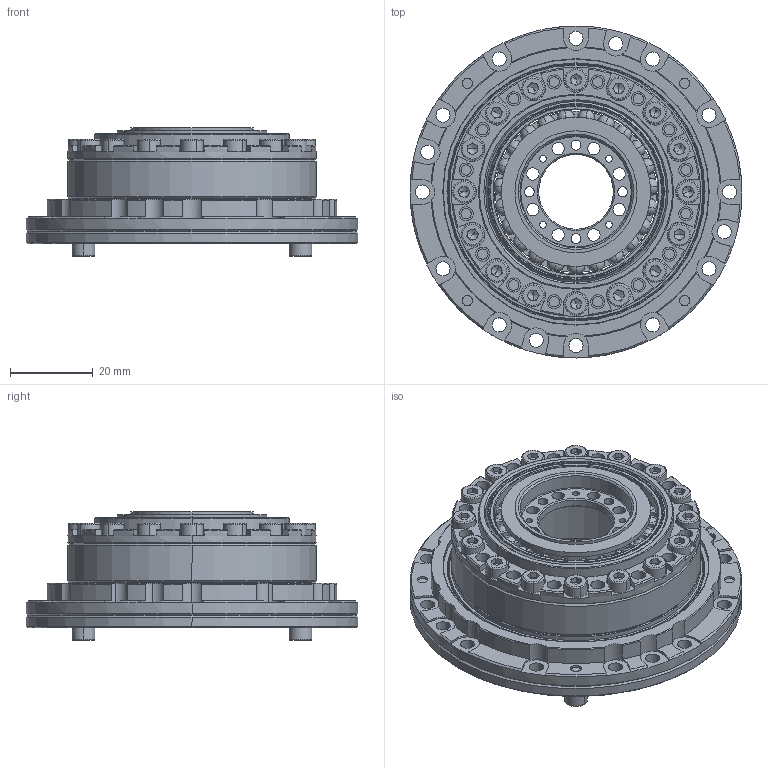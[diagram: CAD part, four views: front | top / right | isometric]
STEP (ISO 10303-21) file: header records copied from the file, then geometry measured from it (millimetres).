
FILE_DESCRIPTION (( 'STEP AP203' ), '1' );
FILE_NAME ('LHSG-17-XXX-C-I-RWL.STEP', '2025-06-14T06:42:24', ( '' ), ( '' ), 'SwSTEP 2.0', 'SolidWorks 2013', '' );
FILE_SCHEMA (( 'CONFIG_CONTROL_DESIGN' ));
Length unit declared in the file: millimetre
Products named in the file (1): LHSG-17-XXX-C-I-RWL
Bounding box: 80 x 80 x 31 mm (x, y, z)
Volume: 43245 mm3; surface area: 50828.1 mm2
Topology: 29 solids, 35 shells, 1449 faces, 3585 edges, 2265 vertices
Faces by surface type: plane 555, cylinder 530, cone 194, torus 124, sphere 46
Entity records: 42841 total; most frequent: DIRECTION 8126, CARTESIAN_POINT 7412, ORIENTED_EDGE 6860, EDGE_CURVE 3430, AXIS2_PLACEMENT_3D 3342, VERTEX_POINT 2196, CIRCLE 1892, EDGE_LOOP 1778
